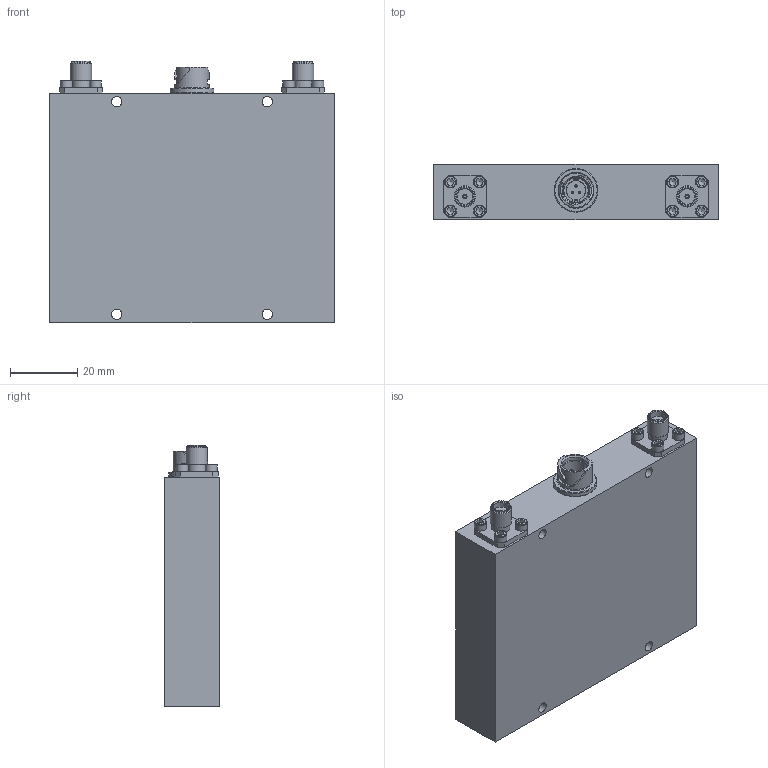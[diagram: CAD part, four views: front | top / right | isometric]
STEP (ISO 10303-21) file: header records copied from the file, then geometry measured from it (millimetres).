
FILE_DESCRIPTION((''),'2;1');
FILE_NAME('\\SERPENTOR\Engineering\ENG\Models\TTRMxxxx\TTRM1004\Inventor\OL_118.stp','2015-06-17T16:25:27',('dcampbell'),(''),'Autodesk Inventor 2013','Autodesk Inventor 2013','');
FILE_SCHEMA(('AUTOMOTIVE_DESIGN { 1 0 10303 214 1 1 1 1 }'));
Length unit declared in the file: inch
Products named in the file (9): OL_118; ol_118; 410-008; 410-008_1; 400-023; gD[XbV[; RVF; Zpibg; Hexagon Socket Head Cap Screw - Inch No. 2 - 56 UNC - 3/16
Assembly tree (15 placements, depth 3):
  OL_118
    ol_118
    410-008
    410-008_1
    400-023
      gD[XbV[
      RVF
      Zpibg
    Hexagon Socket Head Cap Screw - Inch No. 2 - 56 UNC - 3/16  x8
Bounding box: 84.58 x 16.51 x 77.85 mm (x, y, z)
Volume: 96828 mm3; surface area: 20661.8 mm2
Topology: 14 solids, 14 shells, 421 faces, 1072 edges, 701 vertices
Faces by surface type: plane 200, cylinder 114, cone 47, bspline 34, torus 23, sphere 3
Full cylindrical faces by diameter (mm): 0.7 x3, 0.737 x2, 1.016 x3, 1.15 x3, 1.245 x2, 1.295 x2, 1.55 x3, 2.184 x8, 2.591 x8, 3.048 x4, 3.556 x8, 4.597 x2, 5.486 x4, 5.6 x1, 6.35 x2, 6.6 x1, 7.3 x1, 7.6 x1, 8.18 x1, 9 x1, 10.3 x1, 11 x1, 11.7 x1, 12.9 x1, 13 x1
Entity records: 18500 total; most frequent: CARTESIAN_POINT 11040, ORIENTED_EDGE 1488, DIRECTION 1366, EDGE_CURVE 744, VERTEX_POINT 534, AXIS2_PLACEMENT_3D 525, EDGE_LOOP 444, VECTOR 316
